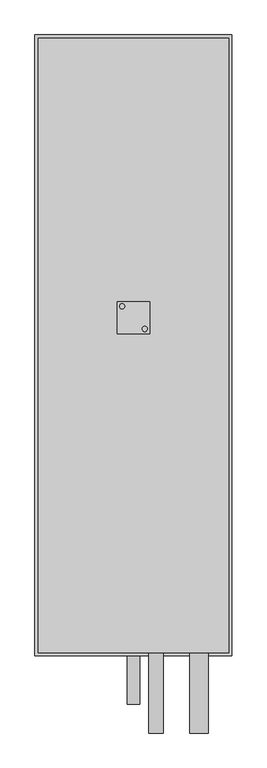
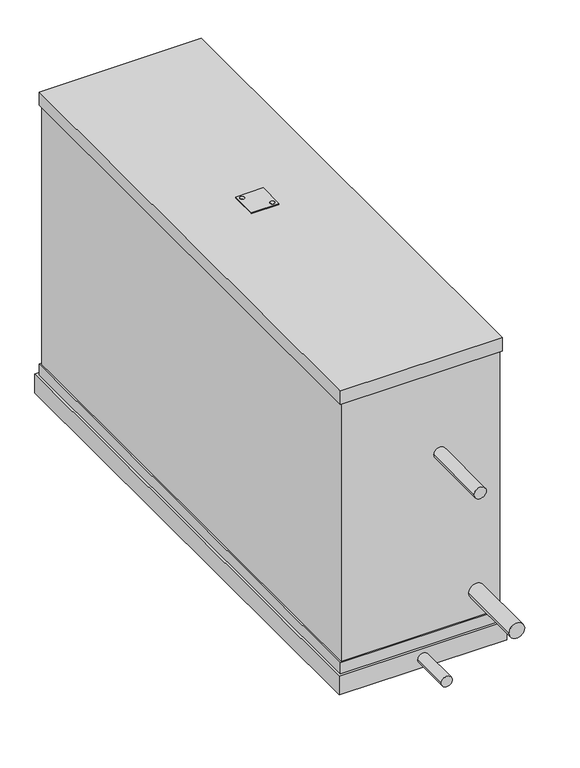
"""IFC4 building model written with IfcOpenShell, lengths in millimetres: proxy geometry, KORF_Воздухоохладитель_Фреоновый_FLO_Левый : FLO 80-50."""

from ifc_helpers import new_model, si_unit, point, frame, frame_2d, origin, place, context, project, spatial, polyline, circle_curve, trimmed, segment, composite_curve, outline, extrude, faceted_brep, source, transform, mapped, element, save


def mechanical_equipment_7da425eb(model_context):
    return source(origin(), model_context, "Body", "SolidModel", [
        extrude(outline(composite_curve([segment(trimmed(circle_curve(frame_2d((170.5727066, -17.5745746)), 4.0), [point((174.5727066, -17.5745746))], [point((166.5727066, -17.5745746))], False, "CARTESIAN"), True, "CONTINUOUS"), segment(trimmed(circle_curve(frame_2d((170.5727066, -17.5745746)), 4.0), [point((166.5727066, -17.5745746))], [point((174.5727066, -17.5745746))], False, "CARTESIAN"), True, "CONTINUOUS")], self_intersect=False)), frame((0.0, 0.0, 276.0), z_axis=(0.0, 0.0, 1.0), x_axis=(1.0, 0.0, 0.0)), (0.0, 0.0, 1.0), 2.0),
        extrude(outline(composite_curve([segment(trimmed(circle_curve(frame_2d((135.4272934, 17.5745746)), 4.0), [point((131.4272934, 17.5745746))], [point((139.4272934, 17.5745746))], False, "CARTESIAN"), True, "CONTINUOUS"), segment(trimmed(circle_curve(frame_2d((135.4272934, 17.5745746)), 4.0), [point((139.4272934, 17.5745746))], [point((131.4272934, 17.5745746))], False, "CARTESIAN"), True, "CONTINUOUS")], self_intersect=False)), frame((0.0, 0.0, 276.0), z_axis=(0.0, 0.0, 1.0), x_axis=(1.0, 0.0, 0.0)), (0.0, 0.0, 1.0), 2.0),
        extrude(outline(polyline([(128.0, -25.0), (128.0, 25.0), (178.0, 25.0), (178.0, -25.0), (128.0, -25.0)]), holes=[composite_curve([segment(trimmed(circle_curve(frame_2d((170.5727066, -17.5745746)), 4.0), [point((174.5727066, -17.5745746))], [point((166.5727066, -17.5745746))], True, "CARTESIAN"), True, "CONTINUOUS"), segment(trimmed(circle_curve(frame_2d((170.5727066, -17.5745746)), 4.0), [point((166.5727066, -17.5745746))], [point((174.5727066, -17.5745746))], True, "CARTESIAN"), True, "CONTINUOUS")], self_intersect=False), composite_curve([segment(trimmed(circle_curve(frame_2d((135.4272934, 17.5745746)), 4.0), [point((131.4272934, 17.5745746))], [point((139.4272934, 17.5745746))], True, "CARTESIAN"), True, "CONTINUOUS"), segment(trimmed(circle_curve(frame_2d((135.4272934, 17.5745746)), 4.0), [point((139.4272934, 17.5745746))], [point((131.4272934, 17.5745746))], True, "CARTESIAN"), True, "CONTINUOUS")], self_intersect=False)]), frame((0.0, 0.0, 276.0), z_axis=(0.0, 0.0, 1.0), x_axis=(1.0, 0.0, 0.0)), (0.0, 0.0, 1.0), 2.0),
        faceted_brep([(306.0, -525.0, -271.0), (306.0, -525.0, -307.0), (306.0, 439.0, -307.0), (306.0, 439.0, -271.0), (0.0, -525.0, -271.0), (0.0, 439.0, -271.0), (0.0, 439.0, -307.0), (0.0, -525.0, -307.0), (301.0, 434.0, -271.0), (301.0, -520.0, -271.0), (5.0, -520.0, -271.0), (5.0, 434.0, -271.0), (298.0, -517.0, 250.0), (298.0, -517.0, -250.0), (298.0, -400.0, -250.0), (298.0, 400.0, -250.0), (298.0, 431.0, -250.0), (298.0, 431.0, 250.0), (298.0, 400.0, 250.0), (298.0, -400.0, 250.0), (8.0, 431.0, 250.0), (8.0, 431.0, -250.0), (8.0, 400.0, -250.0), (8.0, -400.0, -250.0), (8.0, -517.0, -250.0), (8.0, -517.0, 250.0), (8.0, -400.0, 250.0), (8.0, 400.0, 250.0), (301.0, -520.0, 250.0), (301.0, 434.0, 250.0), (301.0, 434.0, 276.0), (301.0, -520.0, 276.0), (301.0, -520.0, -250.0), (301.0, 434.0, -250.0), (5.0, -520.0, 250.0), (5.0, -520.0, 276.0), (5.0, 434.0, 276.0), (5.0, 434.0, 250.0), (5.0, -520.0, -250.0), (5.0, 434.0, -250.0)], [[[0, 1, 2, 3]], [[4, 5, 6, 7]], [[1, 0, 4, 7]], [[2, 1, 7, 6]], [[3, 2, 6, 5]], [[0, 3, 5, 4], [8, 9, 10, 11]], [[12, 13, 14, 15, 16, 17, 18, 19]], [[20, 21, 22, 23, 24, 25, 26, 27]], [[13, 12, 25, 24]], [[17, 16, 21, 20]], [[28, 29, 30, 31]], [[32, 9, 8, 33]], [[34, 35, 36, 37]], [[38, 39, 11, 10]], [[29, 28, 34, 37], [12, 19, 18, 17, 20, 27, 26, 25]], [[30, 29, 37, 36]], [[31, 30, 36, 35]], [[28, 31, 35, 34]], [[9, 32, 38, 10]], [[33, 8, 11, 39]], [[32, 33, 39, 38], [14, 13, 24, 23, 22, 21, 16, 15]]]),
        extrude(outline(composite_curve([segment(trimmed(circle_curve(frame_2d((-199.0, 255.0)), 14.285), [point((-199.0, 240.715))], [point((-199.0, 269.285))], False, "CARTESIAN"), True, "CONTINUOUS"), segment(trimmed(circle_curve(frame_2d((-199.0, 255.0)), 14.285), [point((-199.0, 269.285))], [point((-199.0, 240.715))], False, "CARTESIAN"), True, "CONTINUOUS")], self_intersect=False)), frame((0.0, -645.0, 0.0), z_axis=(0.0, 1.0, 0.0), x_axis=(0.0, 0.0, 1.0)), (0.0, 0.0, 1.0), 128.0),
        extrude(outline(composite_curve([segment(trimmed(circle_curve(frame_2d((91.0, 188.0)), 11.11), [point((91.0, 176.89))], [point((91.0, 199.11))], False, "CARTESIAN"), True, "CONTINUOUS"), segment(trimmed(circle_curve(frame_2d((91.0, 188.0)), 11.11), [point((91.0, 199.11))], [point((91.0, 176.89))], False, "CARTESIAN"), True, "CONTINUOUS")], self_intersect=False)), frame((0.0, -645.0, 0.0), z_axis=(0.0, 1.0, 0.0), x_axis=(0.0, 0.0, 1.0)), (0.0, 0.0, 1.0), 128.0),
        extrude(outline(composite_curve([segment(trimmed(circle_curve(frame_2d((-289.0, 153.0)), 10.0), [point((-289.0, 143.0))], [point((-289.0, 163.0))], False, "CARTESIAN"), True, "CONTINUOUS"), segment(trimmed(circle_curve(frame_2d((-289.0, 153.0)), 10.0), [point((-289.0, 163.0))], [point((-289.0, 143.0))], False, "CARTESIAN"), True, "CONTINUOUS")], self_intersect=False)), frame((0.0, -600.0, 0.0), z_axis=(0.0, 1.0, 0.0), x_axis=(0.0, 0.0, 1.0)), (0.0, 0.0, 1.0), 75.0),
    ])


if __name__ == "__main__":
    model = new_model("IFC4")
    model_context = context("Model", 3, world=origin())
    ifc_project = project(units=[si_unit("LENGTHUNIT", "METRE", prefix="MILLI")], contexts=[model_context])
    site = spatial("IfcSite", under=ifc_project)
    building = spatial("IfcBuilding", under=site)
    placement = place(None, origin())
    mechanical_equipment_shape = mechanical_equipment_7da425eb(model_context)
    element("IfcBuildingElementProxy", 1, Name="KORF_Воздухоохладитель_Фреоновый_FLO_Левый : FLO 80-50", ObjectType="KORF_Воздухоохладитель_Фреоновый_FLO_Левый : FLO 80-50", at=placement, inside=building, context=model_context, shape_type="MappedRepresentation", body=[
        mapped(mechanical_equipment_shape, transform((0.0, 0.0, 0.0), x_axis=(1.0, 0.0, 0.0), y_axis=(0.0, 1.0, 0.0), z_axis=(0.0, 0.0, 1.0))),
    ])
    save(model, "model.ifc")
